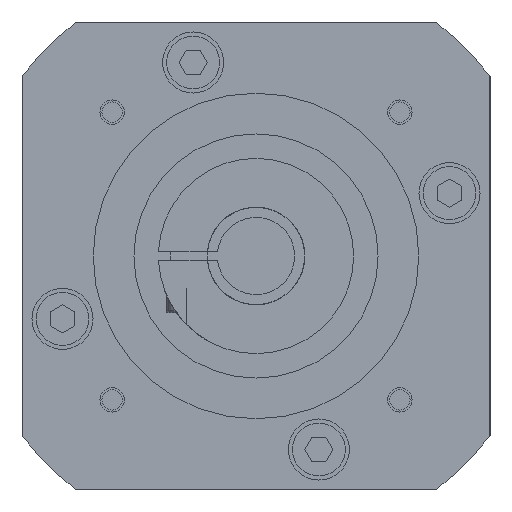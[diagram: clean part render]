
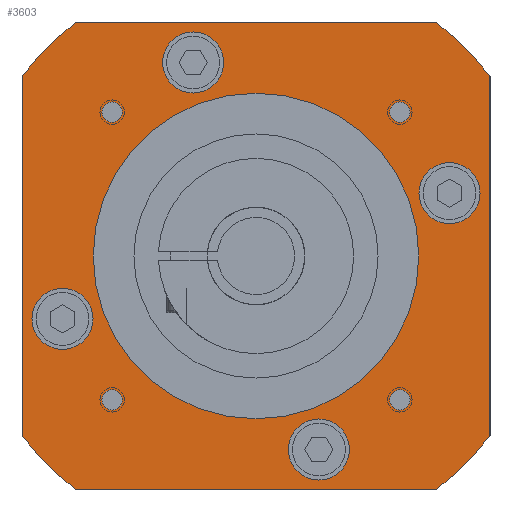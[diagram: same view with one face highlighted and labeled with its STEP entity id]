
A CAD part, left-side view. The second image highlights one B-rep face of the part: STEP entity #3603.
In plain terms, the highlighted planar face has unit normal (-1, 0, 0).
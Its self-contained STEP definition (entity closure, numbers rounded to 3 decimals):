
#164=CARTESIAN_POINT('',(0.,0.,0.));
#165=DIRECTION('',(-1.,0.,0.));
#166=DIRECTION('',(0.,-0.793,0.609));
#167=AXIS2_PLACEMENT_3D('',#164,#165,#166);
#169=DIRECTION('',(0.,0.,1.));
#170=VECTOR('',#169,88.318);
#171=CARTESIAN_POINT('',(0.,-57.5,-44.159));
#172=LINE('',#171,#170);
#173=CARTESIAN_POINT('',(0.,0.,0.));
#174=DIRECTION('',(-1.,0.,0.));
#175=DIRECTION('',(0.,-0.609,-0.793));
#176=AXIS2_PLACEMENT_3D('',#173,#174,#175);
#178=DIRECTION('',(0.,-1.,0.));
#179=VECTOR('',#178,88.318);
#180=CARTESIAN_POINT('',(0.,44.159,-57.5));
#181=LINE('',#180,#179);
#182=CARTESIAN_POINT('',(0.,0.,0.));
#183=DIRECTION('',(-1.,0.,0.));
#184=DIRECTION('',(0.,0.793,-0.609));
#185=AXIS2_PLACEMENT_3D('',#182,#183,#184);
#187=DIRECTION('',(0.,0.,-1.));
#188=VECTOR('',#187,88.318);
#189=CARTESIAN_POINT('',(0.,57.5,44.159));
#190=LINE('',#189,#188);
#191=CARTESIAN_POINT('',(0.,0.,0.));
#192=DIRECTION('',(-1.,0.,0.));
#193=DIRECTION('',(0.,0.609,0.793));
#194=AXIS2_PLACEMENT_3D('',#191,#192,#193);
#196=DIRECTION('',(0.,1.,0.));
#197=VECTOR('',#196,88.318);
#198=CARTESIAN_POINT('',(0.,-44.159,57.5));
#199=LINE('',#198,#197);
#200=CARTESIAN_POINT('',(0.,0.,0.));
#201=DIRECTION('',(1.,0.,0.));
#202=DIRECTION('',(0.,-1.,0.));
#203=AXIS2_PLACEMENT_3D('',#200,#201,#202);
#205=CARTESIAN_POINT('',(0.,0.,0.));
#206=DIRECTION('',(1.,0.,0.));
#207=DIRECTION('',(0.,1.,0.));
#208=AXIS2_PLACEMENT_3D('',#205,#206,#207);
#210=CARTESIAN_POINT('',(0.,-35.355,35.355));
#211=DIRECTION('',(-1.,0.,0.));
#212=DIRECTION('',(0.,0.,-1.));
#213=AXIS2_PLACEMENT_3D('',#210,#211,#212);
#215=CARTESIAN_POINT('',(0.,-35.355,35.355));
#216=DIRECTION('',(-1.,0.,0.));
#217=DIRECTION('',(0.,0.,1.));
#218=AXIS2_PLACEMENT_3D('',#215,#216,#217);
#220=CARTESIAN_POINT('',(0.,-35.355,-35.355));
#221=DIRECTION('',(-1.,0.,0.));
#222=DIRECTION('',(0.,0.,-1.));
#223=AXIS2_PLACEMENT_3D('',#220,#221,#222);
#225=CARTESIAN_POINT('',(0.,-35.355,-35.355));
#226=DIRECTION('',(-1.,0.,0.));
#227=DIRECTION('',(0.,0.,1.));
#228=AXIS2_PLACEMENT_3D('',#225,#226,#227);
#230=CARTESIAN_POINT('',(0.,35.355,-35.355));
#231=DIRECTION('',(-1.,0.,0.));
#232=DIRECTION('',(0.,0.,-1.));
#233=AXIS2_PLACEMENT_3D('',#230,#231,#232);
#235=CARTESIAN_POINT('',(0.,35.355,-35.355));
#236=DIRECTION('',(-1.,0.,0.));
#237=DIRECTION('',(0.,0.,1.));
#238=AXIS2_PLACEMENT_3D('',#235,#236,#237);
#240=CARTESIAN_POINT('',(0.,35.355,35.355));
#241=DIRECTION('',(-1.,0.,0.));
#242=DIRECTION('',(0.,0.,-1.));
#243=AXIS2_PLACEMENT_3D('',#240,#241,#242);
#245=CARTESIAN_POINT('',(0.,35.355,35.355));
#246=DIRECTION('',(-1.,0.,0.));
#247=DIRECTION('',(0.,0.,1.));
#248=AXIS2_PLACEMENT_3D('',#245,#246,#247);
#250=CARTESIAN_POINT('',(0.,-47.553,15.451));
#251=DIRECTION('',(-1.,0.,0.));
#252=DIRECTION('',(0.,0.,1.));
#253=AXIS2_PLACEMENT_3D('',#250,#251,#252);
#255=CARTESIAN_POINT('',(0.,-47.553,15.451));
#256=DIRECTION('',(-1.,0.,0.));
#257=DIRECTION('',(0.,0.,-1.));
#258=AXIS2_PLACEMENT_3D('',#255,#256,#257);
#260=CARTESIAN_POINT('',(0.,-15.451,-47.553));
#261=DIRECTION('',(-1.,0.,0.));
#262=DIRECTION('',(0.,0.,-1.));
#263=AXIS2_PLACEMENT_3D('',#260,#261,#262);
#265=CARTESIAN_POINT('',(0.,-15.451,-47.553));
#266=DIRECTION('',(-1.,0.,0.));
#267=DIRECTION('',(0.,0.,1.));
#268=AXIS2_PLACEMENT_3D('',#265,#266,#267);
#270=CARTESIAN_POINT('',(0.,47.553,-15.451));
#271=DIRECTION('',(-1.,0.,0.));
#272=DIRECTION('',(0.,0.,-1.));
#273=AXIS2_PLACEMENT_3D('',#270,#271,#272);
#275=CARTESIAN_POINT('',(0.,47.553,-15.451));
#276=DIRECTION('',(-1.,0.,0.));
#277=DIRECTION('',(0.,0.,1.));
#278=AXIS2_PLACEMENT_3D('',#275,#276,#277);
#280=CARTESIAN_POINT('',(0.,15.451,47.553));
#281=DIRECTION('',(-1.,0.,0.));
#282=DIRECTION('',(0.,0.,-1.));
#283=AXIS2_PLACEMENT_3D('',#280,#281,#282);
#285=CARTESIAN_POINT('',(0.,15.451,47.553));
#286=DIRECTION('',(-1.,0.,0.));
#287=DIRECTION('',(0.,0.,1.));
#288=AXIS2_PLACEMENT_3D('',#285,#286,#287);
#2874=CARTESIAN_POINT('',(0.,-57.5,44.159));
#2875=CARTESIAN_POINT('',(0.,-44.159,57.5));
#2876=VERTEX_POINT('',#2874);
#2877=VERTEX_POINT('',#2875);
#2878=CARTESIAN_POINT('',(0.,44.159,57.5));
#2879=VERTEX_POINT('',#2878);
#2880=CARTESIAN_POINT('',(0.,57.5,44.159));
#2881=VERTEX_POINT('',#2880);
#2882=CARTESIAN_POINT('',(0.,57.5,-44.159));
#2883=VERTEX_POINT('',#2882);
#2884=CARTESIAN_POINT('',(0.,44.159,-57.5));
#2885=VERTEX_POINT('',#2884);
#2886=CARTESIAN_POINT('',(0.,-44.159,-57.5));
#2887=VERTEX_POINT('',#2886);
#2888=CARTESIAN_POINT('',(0.,-57.5,-44.159));
#2889=VERTEX_POINT('',#2888);
#2890=CARTESIAN_POINT('',(0.,-40.,0.));
#2891=CARTESIAN_POINT('',(0.,40.,0.));
#2892=VERTEX_POINT('',#2890);
#2893=VERTEX_POINT('',#2891);
#2946=CARTESIAN_POINT('',(0.,-35.355,32.855));
#2947=CARTESIAN_POINT('',(0.,-35.355,37.855));
#2948=VERTEX_POINT('',#2946);
#2949=VERTEX_POINT('',#2947);
#2950=CARTESIAN_POINT('',(0.,-35.355,-37.855));
#2951=CARTESIAN_POINT('',(0.,-35.355,-32.855));
#2952=VERTEX_POINT('',#2950);
#2953=VERTEX_POINT('',#2951);
#2954=CARTESIAN_POINT('',(0.,35.355,-37.855));
#2955=CARTESIAN_POINT('',(0.,35.355,-32.855));
#2956=VERTEX_POINT('',#2954);
#2957=VERTEX_POINT('',#2955);
#2958=CARTESIAN_POINT('',(0.,35.355,32.855));
#2959=CARTESIAN_POINT('',(0.,35.355,37.855));
#2960=VERTEX_POINT('',#2958);
#2961=VERTEX_POINT('',#2959);
#2982=CARTESIAN_POINT('',(0.,-47.553,22.951));
#2983=CARTESIAN_POINT('',(0.,-47.553,7.951));
#2984=VERTEX_POINT('',#2982);
#2985=VERTEX_POINT('',#2983);
#2986=CARTESIAN_POINT('',(0.,-15.451,-55.053));
#2987=CARTESIAN_POINT('',(0.,-15.451,-40.053));
#2988=VERTEX_POINT('',#2986);
#2989=VERTEX_POINT('',#2987);
#2990=CARTESIAN_POINT('',(0.,47.553,-22.951));
#2991=CARTESIAN_POINT('',(0.,47.553,-7.951));
#2992=VERTEX_POINT('',#2990);
#2993=VERTEX_POINT('',#2991);
#2994=CARTESIAN_POINT('',(0.,15.451,40.053));
#2995=CARTESIAN_POINT('',(0.,15.451,55.053));
#2996=VERTEX_POINT('',#2994);
#2997=VERTEX_POINT('',#2995);
#3528=CARTESIAN_POINT('',(0.,0.,0.));
#3529=DIRECTION('',(-1.,0.,0.));
#3530=DIRECTION('',(0.,0.,-1.));
#3531=AXIS2_PLACEMENT_3D('',#3528,#3529,#3530);
#3532=PLANE('',#3531);
#3534=ORIENTED_EDGE('',*,*,#3533,.F.);
#3536=ORIENTED_EDGE('',*,*,#3535,.F.);
#3538=ORIENTED_EDGE('',*,*,#3537,.F.);
#3539=ORIENTED_EDGE('',*,*,#3341,.F.);
#3541=ORIENTED_EDGE('',*,*,#3540,.F.);
#3543=ORIENTED_EDGE('',*,*,#3542,.F.);
#3545=ORIENTED_EDGE('',*,*,#3544,.F.);
#3547=ORIENTED_EDGE('',*,*,#3546,.F.);
#3548=EDGE_LOOP('',(#3534,#3536,#3538,#3539,#3541,#3543,#3545,#3547));
#3549=FACE_OUTER_BOUND('',#3548,.F.);
#3551=ORIENTED_EDGE('',*,*,#3550,.F.);
#3552=ORIENTED_EDGE('',*,*,#3518,.F.);
#3553=EDGE_LOOP('',(#3551,#3552));
#3554=FACE_BOUND('',#3553,.F.);
#3556=ORIENTED_EDGE('',*,*,#3555,.T.);
#3558=ORIENTED_EDGE('',*,*,#3557,.T.);
#3559=EDGE_LOOP('',(#3556,#3558));
#3560=FACE_BOUND('',#3559,.F.);
#3562=ORIENTED_EDGE('',*,*,#3561,.T.);
#3564=ORIENTED_EDGE('',*,*,#3563,.T.);
#3565=EDGE_LOOP('',(#3562,#3564));
#3566=FACE_BOUND('',#3565,.F.);
#3568=ORIENTED_EDGE('',*,*,#3567,.T.);
#3570=ORIENTED_EDGE('',*,*,#3569,.T.);
#3571=EDGE_LOOP('',(#3568,#3570));
#3572=FACE_BOUND('',#3571,.F.);
#3574=ORIENTED_EDGE('',*,*,#3573,.T.);
#3576=ORIENTED_EDGE('',*,*,#3575,.T.);
#3577=EDGE_LOOP('',(#3574,#3576));
#3578=FACE_BOUND('',#3577,.F.);
#3580=ORIENTED_EDGE('',*,*,#3579,.T.);
#3582=ORIENTED_EDGE('',*,*,#3581,.T.);
#3583=EDGE_LOOP('',(#3580,#3582));
#3584=FACE_BOUND('',#3583,.F.);
#3586=ORIENTED_EDGE('',*,*,#3585,.T.);
#3588=ORIENTED_EDGE('',*,*,#3587,.T.);
#3589=EDGE_LOOP('',(#3586,#3588));
#3590=FACE_BOUND('',#3589,.F.);
#3592=ORIENTED_EDGE('',*,*,#3591,.T.);
#3594=ORIENTED_EDGE('',*,*,#3593,.T.);
#3595=EDGE_LOOP('',(#3592,#3594));
#3596=FACE_BOUND('',#3595,.F.);
#3598=ORIENTED_EDGE('',*,*,#3597,.T.);
#3600=ORIENTED_EDGE('',*,*,#3599,.T.);
#3601=EDGE_LOOP('',(#3598,#3600));
#3602=FACE_BOUND('',#3601,.F.);
#168=CIRCLE('',#167,72.5);
#177=CIRCLE('',#176,72.5);
#186=CIRCLE('',#185,72.5);
#195=CIRCLE('',#194,72.5);
#204=CIRCLE('',#203,40.);
#209=CIRCLE('',#208,40.);
#214=CIRCLE('',#213,2.5);
#219=CIRCLE('',#218,2.5);
#224=CIRCLE('',#223,2.5);
#229=CIRCLE('',#228,2.5);
#234=CIRCLE('',#233,2.5);
#239=CIRCLE('',#238,2.5);
#244=CIRCLE('',#243,2.5);
#249=CIRCLE('',#248,2.5);
#254=CIRCLE('',#253,7.5);
#259=CIRCLE('',#258,7.5);
#264=CIRCLE('',#263,7.5);
#269=CIRCLE('',#268,7.5);
#274=CIRCLE('',#273,7.5);
#279=CIRCLE('',#278,7.5);
#284=CIRCLE('',#283,7.5);
#289=CIRCLE('',#288,7.5);
#3341=EDGE_CURVE('',#2885,#2887,#181,.T.);
#3518=EDGE_CURVE('',#2893,#2892,#209,.T.);
#3533=EDGE_CURVE('',#2876,#2877,#168,.T.);
#3535=EDGE_CURVE('',#2889,#2876,#172,.T.);
#3537=EDGE_CURVE('',#2887,#2889,#177,.T.);
#3540=EDGE_CURVE('',#2883,#2885,#186,.T.);
#3542=EDGE_CURVE('',#2881,#2883,#190,.T.);
#3544=EDGE_CURVE('',#2879,#2881,#195,.T.);
#3546=EDGE_CURVE('',#2877,#2879,#199,.T.);
#3550=EDGE_CURVE('',#2892,#2893,#204,.T.);
#3555=EDGE_CURVE('',#2948,#2949,#214,.T.);
#3557=EDGE_CURVE('',#2949,#2948,#219,.T.);
#3561=EDGE_CURVE('',#2952,#2953,#224,.T.);
#3563=EDGE_CURVE('',#2953,#2952,#229,.T.);
#3567=EDGE_CURVE('',#2956,#2957,#234,.T.);
#3569=EDGE_CURVE('',#2957,#2956,#239,.T.);
#3573=EDGE_CURVE('',#2960,#2961,#244,.T.);
#3575=EDGE_CURVE('',#2961,#2960,#249,.T.);
#3579=EDGE_CURVE('',#2984,#2985,#254,.T.);
#3581=EDGE_CURVE('',#2985,#2984,#259,.T.);
#3585=EDGE_CURVE('',#2988,#2989,#264,.T.);
#3587=EDGE_CURVE('',#2989,#2988,#269,.T.);
#3591=EDGE_CURVE('',#2992,#2993,#274,.T.);
#3593=EDGE_CURVE('',#2993,#2992,#279,.T.);
#3597=EDGE_CURVE('',#2996,#2997,#284,.T.);
#3599=EDGE_CURVE('',#2997,#2996,#289,.T.);
#3603=ADVANCED_FACE('',(#3549,#3554,#3560,#3566,#3572,#3578,#3584,#3590,#3596,
#3602),#3532,.T.);
